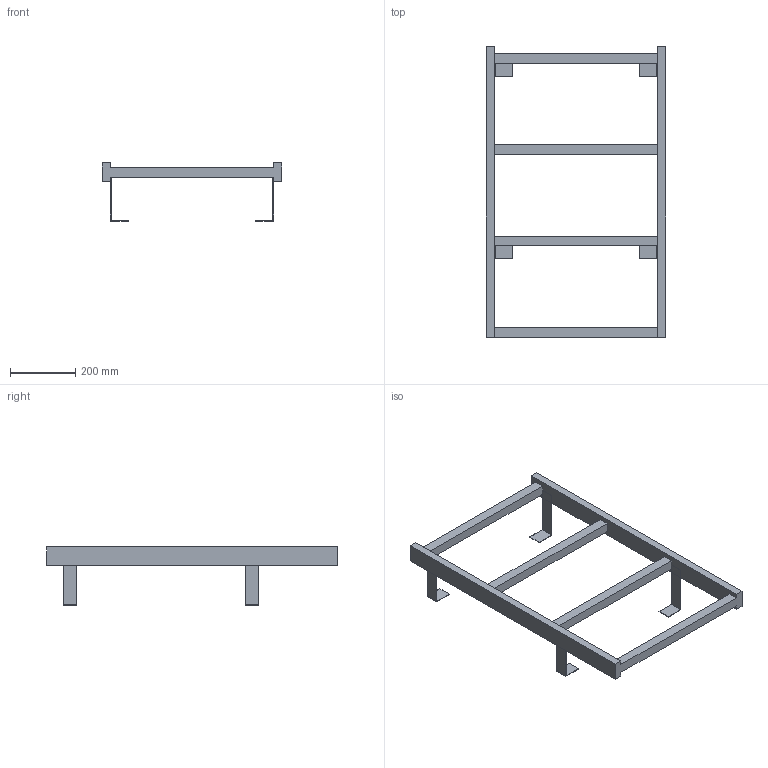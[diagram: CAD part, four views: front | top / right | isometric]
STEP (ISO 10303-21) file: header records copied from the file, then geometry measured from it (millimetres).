
FILE_DESCRIPTION((''),'2;1');
FILE_NAME('52311175','2024-10-17T13:38:57',('wep'),('HUBER SE'),'CREO PARAMETRIC BY PTC INC, 2022162','CREO PARAMETRIC BY PTC INC, 2022162','');
FILE_SCHEMA(('AUTOMOTIVE_DESIGN { 1 0 10303 214 1 1 1 1 }'));
Length unit declared in the file: millimetre
Products named in the file (1): 52311175
Bounding box: 550 x 890 x 178.5 mm (x, y, z)
Volume: 4401460 mm3; surface area: 589908 mm2
Topology: 1 solids, 1 shells, 58 faces, 168 edges, 108 vertices
Faces by surface type: plane 58
Entity records: 2437 total; most frequent: CARTESIAN_POINT 336, ORIENTED_EDGE 336, DIRECTION 284, VECTOR 168, LINE 168, EDGE_CURVE 168, VERTEX_POINT 108, COLOUR_RGB 106
